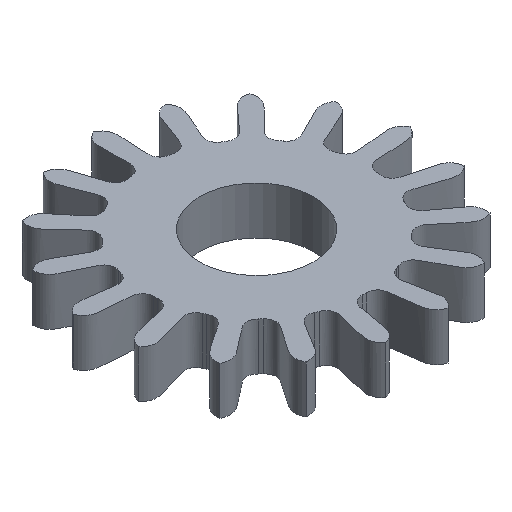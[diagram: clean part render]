
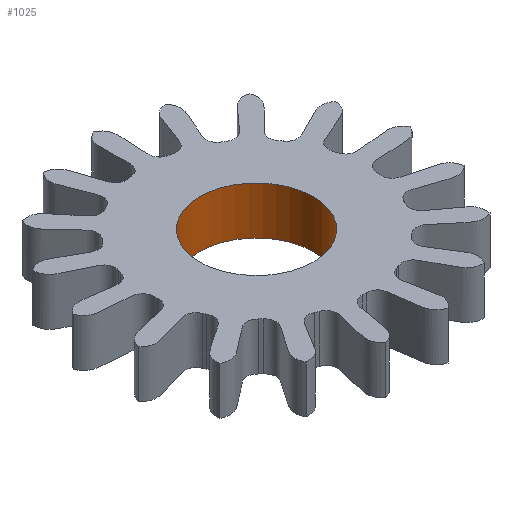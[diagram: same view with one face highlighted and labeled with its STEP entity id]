
A CAD part, isometric view. The second image highlights one B-rep face of the part: STEP entity #1025.
In plain terms, the highlighted cylindrical face has radius 2.292 mm (diameter 4.585 mm), a full revolution.
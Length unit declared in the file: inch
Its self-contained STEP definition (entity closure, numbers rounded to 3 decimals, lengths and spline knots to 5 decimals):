
#120=FACE_OUTER_BOUND('',#174,.T.);
#174=EDGE_LOOP('',(#636,#637,#638,#639,#640,#641));
#230=LINE('',#1333,#282);
#282=VECTOR('',#1163,0.09026);
#334=CIRCLE('',#1100,0.09026);
#335=CIRCLE('',#1101,0.09026);
#336=CIRCLE('',#1102,0.09026);
#337=CIRCLE('',#1103,0.09026);
#372=VERTEX_POINT('',#1329);
#373=VERTEX_POINT('',#1330);
#374=VERTEX_POINT('',#1332);
#375=VERTEX_POINT('',#1334);
#478=EDGE_CURVE('',#372,#373,#334,.T.);
#479=EDGE_CURVE('',#373,#374,#230,.T.);
#480=EDGE_CURVE('',#375,#374,#335,.T.);
#481=EDGE_CURVE('',#374,#375,#336,.T.);
#482=EDGE_CURVE('',#373,#372,#337,.T.);
#636=ORIENTED_EDGE('',*,*,#478,.T.);
#637=ORIENTED_EDGE('',*,*,#479,.T.);
#638=ORIENTED_EDGE('',*,*,#480,.F.);
#639=ORIENTED_EDGE('',*,*,#481,.F.);
#640=ORIENTED_EDGE('',*,*,#479,.F.);
#641=ORIENTED_EDGE('',*,*,#482,.T.);
#952=CYLINDRICAL_SURFACE('',#1099,0.09026);
#1025=ADVANCED_FACE('',(#120),#952,.F.);
#1099=AXIS2_PLACEMENT_3D('',#1328,#1159,#1160);
#1100=AXIS2_PLACEMENT_3D('',#1331,#1161,#1162);
#1101=AXIS2_PLACEMENT_3D('',#1335,#1164,#1165);
#1102=AXIS2_PLACEMENT_3D('',#1336,#1166,#1167);
#1103=AXIS2_PLACEMENT_3D('',#1337,#1168,#1169);
#1159=DIRECTION('center_axis',(0.,0.,
-1.));
#1160=DIRECTION('ref_axis',(0.86,0.511,0.));
#1161=DIRECTION('center_axis',(0.,0.,
1.));
#1162=DIRECTION('ref_axis',(-0.86,-0.511,0.));
#1163=DIRECTION('',(0.,0.,-1.));
#1164=DIRECTION('center_axis',(0.,0.,
1.));
#1165=DIRECTION('ref_axis',(-0.86,-0.511,0.));
#1166=DIRECTION('center_axis',(0.,0.,
1.));
#1167=DIRECTION('ref_axis',(-0.86,-0.511,0.));
#1168=DIRECTION('center_axis',(0.,0.,
1.));
#1169=DIRECTION('ref_axis',(-0.86,-0.511,0.));
#1328=CARTESIAN_POINT('Origin',(0.35273,1.058,-0.17913));
#1329=CARTESIAN_POINT('',(0.43031,1.10413,-0.17913));
#1330=CARTESIAN_POINT('',(0.27515,1.01188,-0.17913));
#1331=CARTESIAN_POINT('Origin',(0.35273,1.058,-0.17913));
#1332=CARTESIAN_POINT('',(0.27515,1.01188,-0.25492));
#1333=CARTESIAN_POINT('',(0.27515,1.01188,-0.17913));
#1334=CARTESIAN_POINT('',(0.43031,1.10413,-0.25492));
#1335=CARTESIAN_POINT('Origin',(0.35273,1.058,-0.25492));
#1336=CARTESIAN_POINT('Origin',(0.35273,1.058,-0.25492));
#1337=CARTESIAN_POINT('Origin',(0.35273,1.058,-0.17913));
